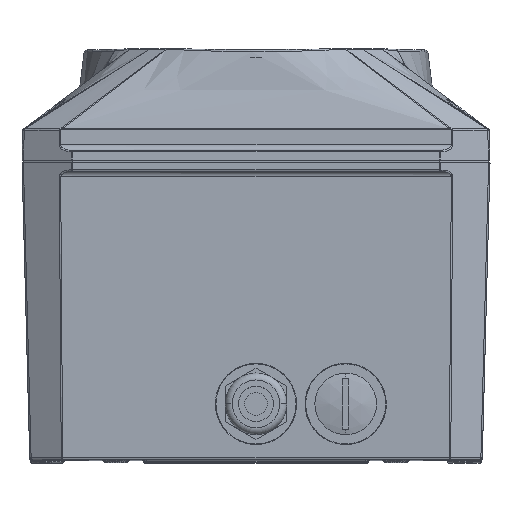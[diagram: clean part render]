
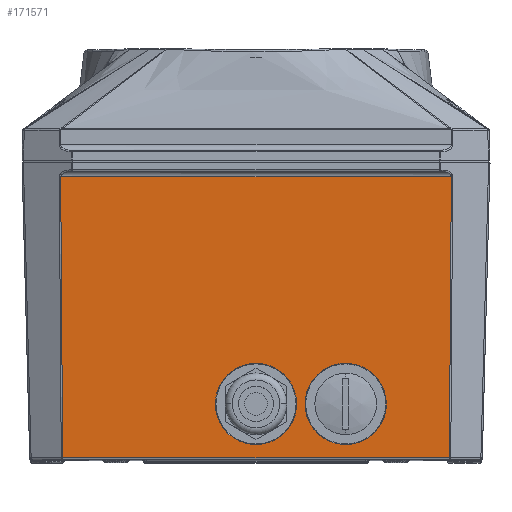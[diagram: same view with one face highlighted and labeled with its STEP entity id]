
A CAD part, top view. The second image highlights one B-rep face of the part: STEP entity #171571.
In plain terms, the highlighted planar face has unit normal (0, -0.026, 1).
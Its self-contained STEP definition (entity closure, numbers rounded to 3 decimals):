
#982 = CARTESIAN_POINT ( 'NONE',  ( 17.5, -52., 64.498 ) ) ;
#2295 = CARTESIAN_POINT ( 'NONE',  ( -68.994, -71.221, 63.995 ) ) ;
#2843 = EDGE_CURVE ( 'NONE', #173037, #15374, #90241, .T. ) ;
#5202 = DIRECTION ( 'NONE',  ( 0.007, -1., -0.026 ) ) ;
#5689 = VECTOR ( 'NONE', #5202, 1000. ) ;
#9335 = ORIENTED_EDGE ( 'NONE', *, *, #25419, .T. ) ;
#13438 = CARTESIAN_POINT ( 'NONE',  ( 69.697, 29.052, 66.62 ) ) ;
#14421 = DIRECTION ( 'NONE',  ( 0., -0.026, 1. ) ) ;
#15287 = DIRECTION ( 'NONE',  ( 0.007, 1., 0.026 ) ) ;
#15374 = VERTEX_POINT ( 'NONE', #13438 ) ;
#16409 = CARTESIAN_POINT ( 'NONE',  ( -14.5, -52., 64.498 ) ) ;
#18281 = EDGE_CURVE ( 'NONE', #235252, #115641, #46312, .T. ) ;
#21193 = CARTESIAN_POINT ( 'NONE',  ( 17.5, -52., 64.498 ) ) ;
#25419 = EDGE_CURVE ( 'NONE', #15374, #103474, #67060, .T. ) ;
#28997 = CARTESIAN_POINT ( 'NONE',  ( -14.5, -52., 64.498 ) ) ;
#30240 =( BOUNDED_CURVE ( )  B_SPLINE_CURVE ( 3, ( #111341, #36346, #190196, #16409 ),
 .UNSPECIFIED., .F., .F. ) 
 B_SPLINE_CURVE_WITH_KNOTS ( ( 4, 4 ),
 ( 4.712, 7.854 ),
 .UNSPECIFIED. ) 
 CURVE ( )  GEOMETRIC_REPRESENTATION_ITEM ( )  RATIONAL_B_SPLINE_CURVE ( ( 1., 0.333, 0.333, 1. ) ) 
 REPRESENTATION_ITEM ( '' )  );
#30593 = ORIENTED_EDGE ( 'NONE', *, *, #84743, .F. ) ;
#36346 = CARTESIAN_POINT ( 'NONE',  ( 14.5, -23., 65.257 ) ) ;
#36591 = VERTEX_POINT ( 'NONE', #105622 ) ;
#39486 = EDGE_CURVE ( 'NONE', #115641, #235252, #131129, .T. ) ;
#46312 =( BOUNDED_CURVE ( )  B_SPLINE_CURVE ( 3, ( #982, #151109, #227472, #56073 ),
 .UNSPECIFIED., .F., .F. ) 
 B_SPLINE_CURVE_WITH_KNOTS ( ( 4, 4 ),
 ( 1.571, 4.712 ),
 .UNSPECIFIED. ) 
 CURVE ( )  GEOMETRIC_REPRESENTATION_ITEM ( )  RATIONAL_B_SPLINE_CURVE ( ( 1., 0.333, 0.333, 1. ) ) 
 REPRESENTATION_ITEM ( '' )  );
#47531 = DIRECTION ( 'NONE',  ( 1., 0., 0. ) ) ;
#49643 = VECTOR ( 'NONE', #47531, 1000. ) ;
#50768 = FACE_BOUND ( 'NONE', #106416, .T. ) ;
#56073 = CARTESIAN_POINT ( 'NONE',  ( 46.5, -52., 64.498 ) ) ;
#57202 = CARTESIAN_POINT ( 'NONE',  ( -69.697, 29.052, 66.62 ) ) ;
#62816 = EDGE_LOOP ( 'NONE', ( #111003, #30593 ) ) ;
#65234 = CARTESIAN_POINT ( 'NONE',  ( 14.5, -81., 63.739 ) ) ;
#67060 = LINE ( 'NONE', #122070, #165413 ) ;
#70671 = PLANE ( 'NONE',  #133285 ) ;
#73143 = CARTESIAN_POINT ( 'NONE',  ( 0., 34., 66.75 ) ) ;
#76210 = CARTESIAN_POINT ( 'NONE',  ( 46.5, -23., 65.257 ) ) ;
#83660 = VERTEX_POINT ( 'NONE', #245350 ) ;
#83943 = CARTESIAN_POINT ( 'NONE',  ( 68.994, -71.221, 63.995 ) ) ;
#84743 = EDGE_CURVE ( 'NONE', #83660, #36591, #234022, .T. ) ;
#85791 = ORIENTED_EDGE ( 'NONE', *, *, #185100, .T. ) ;
#89404 = FACE_OUTER_BOUND ( 'NONE', #156083, .T. ) ;
#90241 = LINE ( 'NONE', #166600, #160105 ) ;
#103474 = VERTEX_POINT ( 'NONE', #57202 ) ;
#105622 = CARTESIAN_POINT ( 'NONE',  ( 14.5, -52., 64.498 ) ) ;
#106416 = EDGE_LOOP ( 'NONE', ( #159853, #114210 ) ) ;
#111003 = ORIENTED_EDGE ( 'NONE', *, *, #198471, .F. ) ;
#111341 = CARTESIAN_POINT ( 'NONE',  ( 14.5, -52., 64.498 ) ) ;
#114210 = ORIENTED_EDGE ( 'NONE', *, *, #18281, .F. ) ;
#115641 = VERTEX_POINT ( 'NONE', #224865 ) ;
#116145 = CARTESIAN_POINT ( 'NONE',  ( 46.5, -52., 64.498 ) ) ;
#122070 = CARTESIAN_POINT ( 'NONE',  ( 0., 29.052, 66.62 ) ) ;
#128161 = FACE_BOUND ( 'NONE', #62816, .T. ) ;
#131129 =( BOUNDED_CURVE ( )  B_SPLINE_CURVE ( 3, ( #116145, #76210, #136137, #21193 ),
 .UNSPECIFIED., .F., .F. ) 
 B_SPLINE_CURVE_WITH_KNOTS ( ( 4, 4 ),
 ( 4.712, 7.854 ),
 .UNSPECIFIED. ) 
 CURVE ( )  GEOMETRIC_REPRESENTATION_ITEM ( )  RATIONAL_B_SPLINE_CURVE ( ( 1., 0.333, 0.333, 1. ) ) 
 REPRESENTATION_ITEM ( '' )  );
#133285 = AXIS2_PLACEMENT_3D ( 'NONE', #73143, #14421, #243477 ) ;
#136137 = CARTESIAN_POINT ( 'NONE',  ( 17.5, -23., 65.257 ) ) ;
#140868 = DIRECTION ( 'NONE',  ( -1., 0., 0. ) ) ;
#151109 = CARTESIAN_POINT ( 'NONE',  ( 17.5, -81., 63.739 ) ) ;
#156083 = EDGE_LOOP ( 'NONE', ( #85791, #224871, #231460, #9335 ) ) ;
#159853 = ORIENTED_EDGE ( 'NONE', *, *, #39486, .F. ) ;
#160105 = VECTOR ( 'NONE', #15287, 1000. ) ;
#165413 = VECTOR ( 'NONE', #140868, 1000. ) ;
#166600 = CARTESIAN_POINT ( 'NONE',  ( 69.729, 33.511, 66.737 ) ) ;
#168987 = CARTESIAN_POINT ( 'NONE',  ( 17.5, -52., 64.498 ) ) ;
#171571 = ADVANCED_FACE ( 'NONE', ( #128161, #50768, #89404 ), #70671, .T. ) ;
#173037 = VERTEX_POINT ( 'NONE', #83943 ) ;
#175355 = VERTEX_POINT ( 'NONE', #2295 ) ;
#176512 = CARTESIAN_POINT ( 'NONE',  ( -68.988, -71.998, 63.974 ) ) ;
#181568 = CARTESIAN_POINT ( 'NONE',  ( 14.5, -52., 64.498 ) ) ;
#185100 = EDGE_CURVE ( 'NONE', #103474, #175355, #235464, .T. ) ;
#190196 = CARTESIAN_POINT ( 'NONE',  ( -14.5, -23., 65.257 ) ) ;
#198471 = EDGE_CURVE ( 'NONE', #36591, #83660, #30240, .T. ) ;
#218900 = LINE ( 'NONE', #221326, #49643 ) ;
#221326 = CARTESIAN_POINT ( 'NONE',  ( 0., -71.221, 63.995 ) ) ;
#224865 = CARTESIAN_POINT ( 'NONE',  ( 46.5, -52., 64.498 ) ) ;
#224871 = ORIENTED_EDGE ( 'NONE', *, *, #231345, .T. ) ;
#227472 = CARTESIAN_POINT ( 'NONE',  ( 46.5, -81., 63.739 ) ) ;
#231345 = EDGE_CURVE ( 'NONE', #175355, #173037, #218900, .T. ) ;
#231460 = ORIENTED_EDGE ( 'NONE', *, *, #2843, .T. ) ;
#234022 =( BOUNDED_CURVE ( )  B_SPLINE_CURVE ( 3, ( #28997, #236776, #65234, #181568 ),
 .UNSPECIFIED., .F., .F. ) 
 B_SPLINE_CURVE_WITH_KNOTS ( ( 4, 4 ),
 ( 1.571, 4.712 ),
 .UNSPECIFIED. ) 
 CURVE ( )  GEOMETRIC_REPRESENTATION_ITEM ( )  RATIONAL_B_SPLINE_CURVE ( ( 1., 0.333, 0.333, 1. ) ) 
 REPRESENTATION_ITEM ( '' )  );
#235252 = VERTEX_POINT ( 'NONE', #168987 ) ;
#235464 = LINE ( 'NONE', #176512, #5689 ) ;
#236776 = CARTESIAN_POINT ( 'NONE',  ( -14.5, -81., 63.739 ) ) ;
#243477 = DIRECTION ( 'NONE',  ( 0., -1., -0.026 ) ) ;
#245350 = CARTESIAN_POINT ( 'NONE',  ( -14.5, -52., 64.498 ) ) ;
